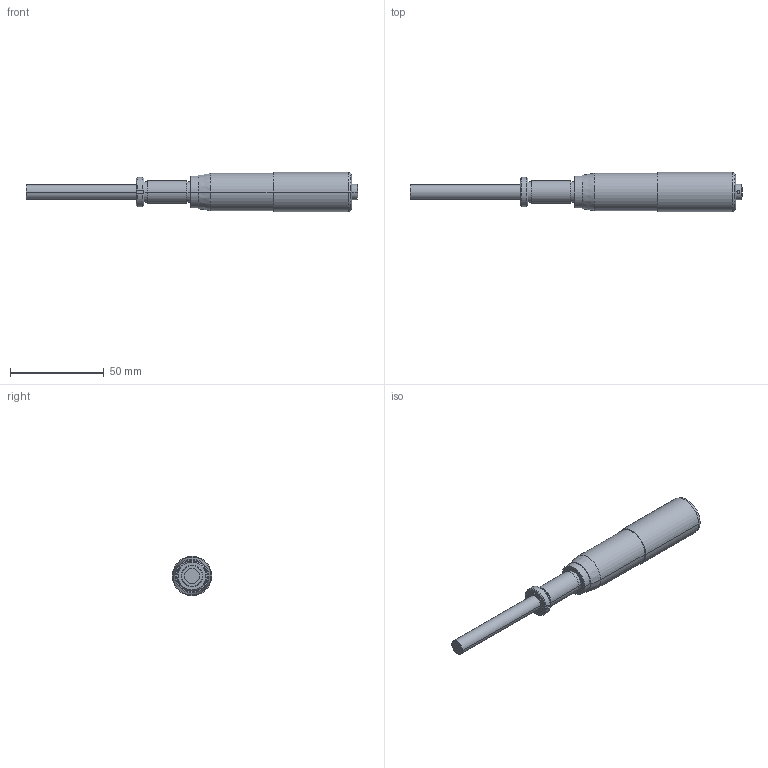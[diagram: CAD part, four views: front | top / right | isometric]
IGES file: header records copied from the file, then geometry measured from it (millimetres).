
Global section: file name: No Iges File Name specified; native system: AutoDesk Inventor R12.0; preprocessor: AutoDesk Inventor Iges Exporter R12.0; author: No Author specified; organization: No Organization specified; date: 20100208.143445; units: millimetre
Bounding box: 177.37 x 21 x 21 mm (x, y, z)
Volume: 32585.4 mm3; surface area: 23259.2 mm2
Topology: 2 solids, 3 shells, 102 faces, 210 edges, 133 vertices
Faces by surface type: plane 30, cylinder 26, cone 22, revolution 14, bspline 9, sphere 1
